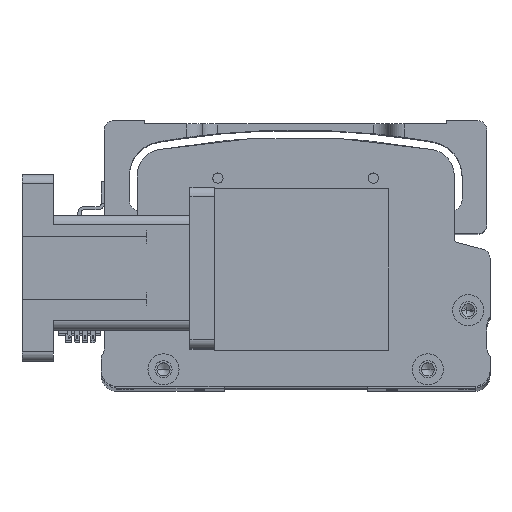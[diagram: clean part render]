
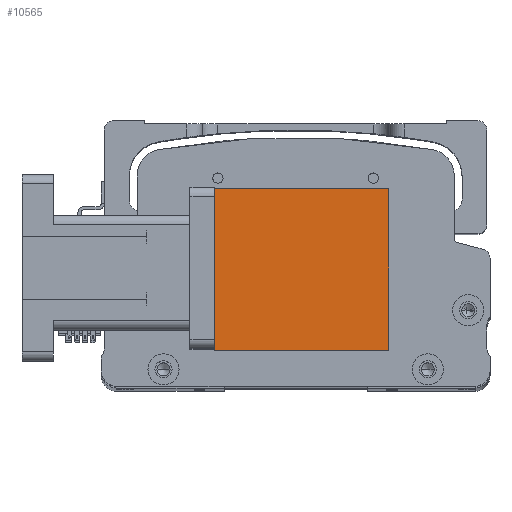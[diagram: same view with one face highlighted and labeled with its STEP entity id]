
A CAD part, top view. The second image highlights one B-rep face of the part: STEP entity #10565.
In plain terms, the highlighted planar face has unit normal (0, 0, 1) as drawn and (-1, 0, 0) by its records, which use the part's own axes.
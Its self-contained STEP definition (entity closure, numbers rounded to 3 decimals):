
#572 = CARTESIAN_POINT ( 'NONE',  ( -31.5, -26., 56. ) ) ;
#1436 = EDGE_CURVE ( 'NONE', #8214, #34669, #15951, .T. ) ;
#1500 = EDGE_CURVE ( 'NONE', #24851, #8214, #12911, .T. ) ;
#3436 = AXIS2_PLACEMENT_3D ( 'NONE', #572, #7050, #29482 ) ;
#3954 = CARTESIAN_POINT ( 'NONE',  ( -31.5, -26., 56. ) ) ;
#5525 = ORIENTED_EDGE ( 'NONE', *, *, #20760, .T. ) ;
#7050 = DIRECTION ( 'NONE',  ( 1., 0., 0. ) ) ;
#8214 = VERTEX_POINT ( 'NONE', #35595 ) ;
#10291 = CARTESIAN_POINT ( 'NONE',  ( -31.5, 26., 0. ) ) ;
#10565 = ADVANCED_FACE ( 'NONE', ( #13454 ), #38971, .F. ) ;
#12055 = EDGE_LOOP ( 'NONE', ( #5525, #37030, #38396, #23706 ) ) ;
#12911 = LINE ( 'NONE', #33142, #20460 ) ;
#13454 = FACE_OUTER_BOUND ( 'NONE', #12055, .T. ) ;
#15951 = LINE ( 'NONE', #3954, #39489 ) ;
#16760 = DIRECTION ( 'NONE',  ( 0., 0., -1. ) ) ;
#18314 = VECTOR ( 'NONE', #28757, 1000. ) ;
#20327 = LINE ( 'NONE', #41455, #18314 ) ;
#20460 = VECTOR ( 'NONE', #36337, 1000. ) ;
#20677 = CARTESIAN_POINT ( 'NONE',  ( -31.5, 26., 56. ) ) ;
#20760 = EDGE_CURVE ( 'NONE', #27817, #34669, #20327, .T. ) ;
#20864 = LINE ( 'NONE', #20677, #27412 ) ;
#23706 = ORIENTED_EDGE ( 'NONE', *, *, #27959, .T. ) ;
#24851 = VERTEX_POINT ( 'NONE', #27620 ) ;
#27412 = VECTOR ( 'NONE', #39830, 1000. ) ;
#27620 = CARTESIAN_POINT ( 'NONE',  ( -31.5, 26., 56. ) ) ;
#27817 = VERTEX_POINT ( 'NONE', #10291 ) ;
#27959 = EDGE_CURVE ( 'NONE', #24851, #27817, #20864, .T. ) ;
#28757 = DIRECTION ( 'NONE',  ( 0., -1., 0. ) ) ;
#29482 = DIRECTION ( 'NONE',  ( 0., 0., -1. ) ) ;
#32034 = CARTESIAN_POINT ( 'NONE',  ( -31.5, -26., 0. ) ) ;
#33142 = CARTESIAN_POINT ( 'NONE',  ( -31.5, -26., 56. ) ) ;
#34669 = VERTEX_POINT ( 'NONE', #32034 ) ;
#35595 = CARTESIAN_POINT ( 'NONE',  ( -31.5, -26., 56. ) ) ;
#36337 = DIRECTION ( 'NONE',  ( 0., -1., 0. ) ) ;
#37030 = ORIENTED_EDGE ( 'NONE', *, *, #1436, .F. ) ;
#38396 = ORIENTED_EDGE ( 'NONE', *, *, #1500, .F. ) ;
#38971 = PLANE ( 'NONE',  #3436 ) ;
#39489 = VECTOR ( 'NONE', #16760, 1000. ) ;
#39830 = DIRECTION ( 'NONE',  ( 0., 0., -1. ) ) ;
#41455 = CARTESIAN_POINT ( 'NONE',  ( -31.5, -26., 0. ) ) ;
